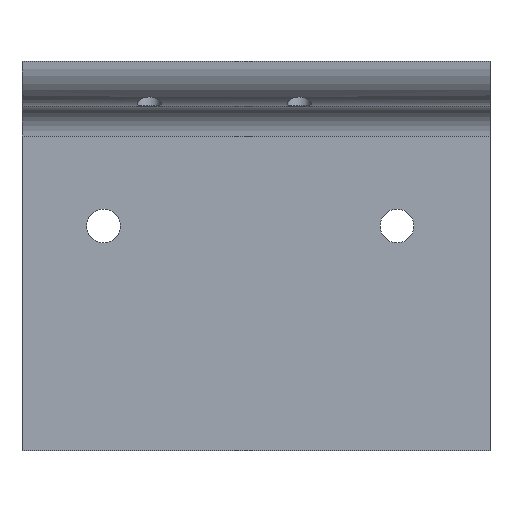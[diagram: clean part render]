
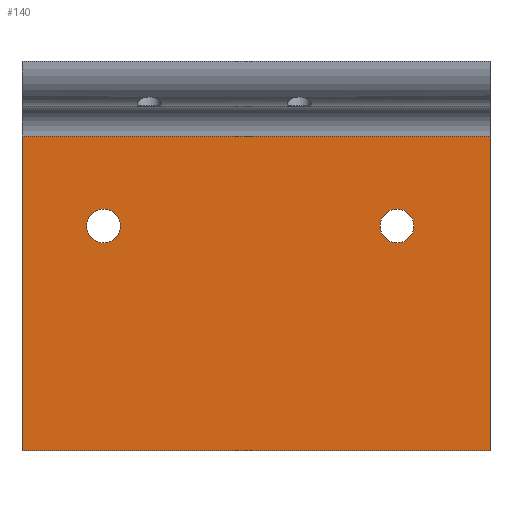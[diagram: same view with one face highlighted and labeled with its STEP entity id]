
A CAD part, front view. The second image highlights one B-rep face of the part: STEP entity #140.
In plain terms, the highlighted planar face has unit normal (0, -1, 0).
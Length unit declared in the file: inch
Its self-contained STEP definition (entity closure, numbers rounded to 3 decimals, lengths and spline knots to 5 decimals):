
#8 = ORIENTED_EDGE ( 'NONE', *, *, #749, .T. ) ;
#30 = FACE_BOUND ( 'NONE', #894, .T. ) ;
#40 = VERTEX_POINT ( 'NONE', #346 ) ;
#41 = DIRECTION ( 'NONE',  ( 0., 0., 1. ) ) ;
#49 = CARTESIAN_POINT ( 'NONE',  ( -1.27, 2.625, -1. ) ) ;
#68 = VERTEX_POINT ( 'NONE', #848 ) ;
#72 = VERTEX_POINT ( 'NONE', #125 ) ;
#82 = ORIENTED_EDGE ( 'NONE', *, *, #466, .F. ) ;
#85 = CARTESIAN_POINT ( 'NONE',  ( -1.95, 2.625, -2.875 ) ) ;
#88 = CIRCLE ( 'NONE', #613, 0.14062 ) ;
#90 = DIRECTION ( 'NONE',  ( 0., 0., 1. ) ) ;
#110 = VECTOR ( 'NONE', #424, 39.37008 ) ;
#112 = ORIENTED_EDGE ( 'NONE', *, *, #324, .T. ) ;
#125 = CARTESIAN_POINT ( 'NONE',  ( 1.175, 2.625, -0.85938 ) ) ;
#130 = LINE ( 'NONE', #653, #182 ) ;
#139 = AXIS2_PLACEMENT_3D ( 'NONE', #781, #574, #41 ) ;
#140 = ADVANCED_FACE ( 'NONE', ( #30, #370, #745 ), #319, .F. ) ;
#151 = DIRECTION ( 'NONE',  ( 0., 1., 0. ) ) ;
#168 = ORIENTED_EDGE ( 'NONE', *, *, #842, .T. ) ;
#182 = VECTOR ( 'NONE', #672, 39.37008 ) ;
#229 = CARTESIAN_POINT ( 'NONE',  ( 1.95, 2.625, -2.875 ) ) ;
#232 = EDGE_CURVE ( 'NONE', #40, #744, #722, .T. ) ;
#235 = CIRCLE ( 'NONE', #750, 0.14062 ) ;
#265 = VERTEX_POINT ( 'NONE', #350 ) ;
#301 = DIRECTION ( 'NONE',  ( 0., 0., 1. ) ) ;
#319 = PLANE ( 'NONE',  #748 ) ;
#324 = EDGE_CURVE ( 'NONE', #68, #72, #88, .T. ) ;
#346 = CARTESIAN_POINT ( 'NONE',  ( 1.95, 2.625, -2.875 ) ) ;
#350 = CARTESIAN_POINT ( 'NONE',  ( 1.95, 2.625, -0.25 ) ) ;
#370 = FACE_BOUND ( 'NONE', #732, .T. ) ;
#375 = LINE ( 'NONE', #85, #528 ) ;
#395 = ORIENTED_EDGE ( 'NONE', *, *, #768, .T. ) ;
#408 = ORIENTED_EDGE ( 'NONE', *, *, #561, .T. ) ;
#413 = VERTEX_POINT ( 'NONE', #475 ) ;
#414 = EDGE_LOOP ( 'NONE', ( #408, #8, #82, #443 ) ) ;
#424 = DIRECTION ( 'NONE',  ( -1., 0., 0. ) ) ;
#443 = ORIENTED_EDGE ( 'NONE', *, *, #232, .F. ) ;
#466 = EDGE_CURVE ( 'NONE', #744, #847, #375, .T. ) ;
#475 = CARTESIAN_POINT ( 'NONE',  ( -1.27, 2.625, -0.85938 ) ) ;
#490 = CARTESIAN_POINT ( 'NONE',  ( -1.95, 2.625, -0.25 ) ) ;
#492 = DIRECTION ( 'NONE',  ( 0., 0., 1. ) ) ;
#497 = CIRCLE ( 'NONE', #139, 0.14062 ) ;
#505 = ORIENTED_EDGE ( 'NONE', *, *, #831, .T. ) ;
#528 = VECTOR ( 'NONE', #90, 39.37008 ) ;
#531 = CARTESIAN_POINT ( 'NONE',  ( 1.95, 2.625, -2.875 ) ) ;
#556 = DIRECTION ( 'NONE',  ( 0., 1., 0. ) ) ;
#561 = EDGE_CURVE ( 'NONE', #40, #265, #790, .T. ) ;
#566 = CARTESIAN_POINT ( 'NONE',  ( 1.95, 2.625, -2.875 ) ) ;
#574 = DIRECTION ( 'NONE',  ( 0., 1., 0. ) ) ;
#583 = CIRCLE ( 'NONE', #782, 0.14062 ) ;
#600 = CARTESIAN_POINT ( 'NONE',  ( 1.175, 2.625, -1. ) ) ;
#613 = AXIS2_PLACEMENT_3D ( 'NONE', #600, #556, #614 ) ;
#614 = DIRECTION ( 'NONE',  ( 0., 0., 1. ) ) ;
#633 = CARTESIAN_POINT ( 'NONE',  ( -1.27, 2.625, -1.14062 ) ) ;
#648 = DIRECTION ( 'NONE',  ( 0., 0., 1. ) ) ;
#653 = CARTESIAN_POINT ( 'NONE',  ( 1.95, 2.625, -0.25 ) ) ;
#672 = DIRECTION ( 'NONE',  ( -1., 0., 0. ) ) ;
#714 = CARTESIAN_POINT ( 'NONE',  ( -1.27, 2.625, -1. ) ) ;
#716 = DIRECTION ( 'NONE',  ( 0., 1., 0. ) ) ;
#720 = DIRECTION ( 'NONE',  ( 0., 0., 1. ) ) ;
#722 = LINE ( 'NONE', #229, #110 ) ;
#732 = EDGE_LOOP ( 'NONE', ( #168, #112 ) ) ;
#744 = VERTEX_POINT ( 'NONE', #770 ) ;
#745 = FACE_OUTER_BOUND ( 'NONE', #414, .T. ) ;
#748 = AXIS2_PLACEMENT_3D ( 'NONE', #531, #901, #648 ) ;
#749 = EDGE_CURVE ( 'NONE', #265, #847, #130, .T. ) ;
#750 = AXIS2_PLACEMENT_3D ( 'NONE', #714, #716, #720 ) ;
#768 = EDGE_CURVE ( 'NONE', #867, #413, #235, .T. ) ;
#770 = CARTESIAN_POINT ( 'NONE',  ( -1.95, 2.625, -2.875 ) ) ;
#781 = CARTESIAN_POINT ( 'NONE',  ( 1.175, 2.625, -1. ) ) ;
#782 = AXIS2_PLACEMENT_3D ( 'NONE', #49, #151, #301 ) ;
#790 = LINE ( 'NONE', #566, #791 ) ;
#791 = VECTOR ( 'NONE', #492, 39.37008 ) ;
#831 = EDGE_CURVE ( 'NONE', #413, #867, #583, .T. ) ;
#842 = EDGE_CURVE ( 'NONE', #72, #68, #497, .T. ) ;
#847 = VERTEX_POINT ( 'NONE', #490 ) ;
#848 = CARTESIAN_POINT ( 'NONE',  ( 1.175, 2.625, -1.14062 ) ) ;
#867 = VERTEX_POINT ( 'NONE', #633 ) ;
#894 = EDGE_LOOP ( 'NONE', ( #505, #395 ) ) ;
#901 = DIRECTION ( 'NONE',  ( 0., 1., 0. ) ) ;
